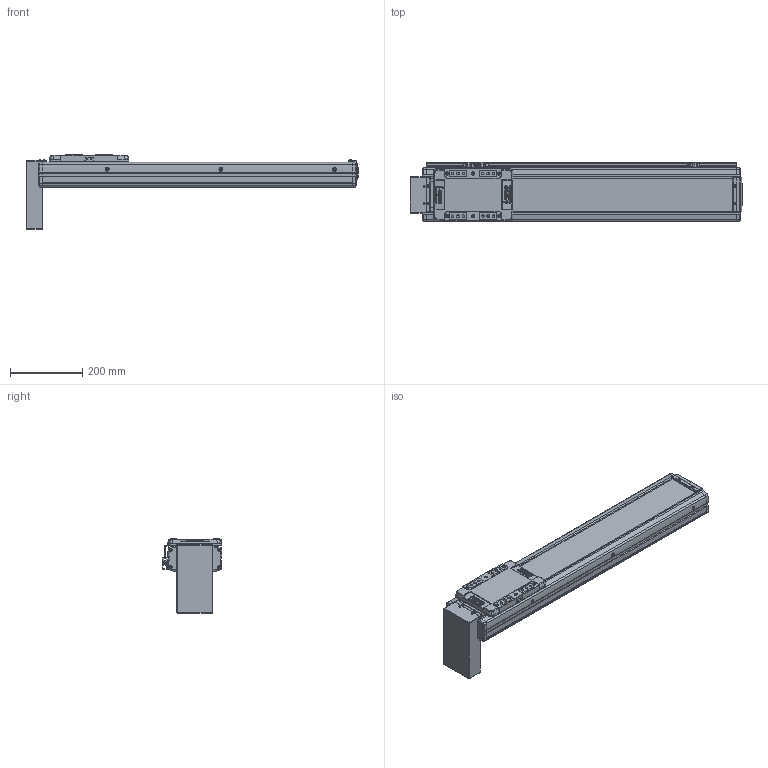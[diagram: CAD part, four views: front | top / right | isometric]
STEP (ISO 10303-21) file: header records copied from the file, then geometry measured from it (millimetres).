
FILE_DESCRIPTION(('STEP AP214'),'1');
FILE_NAME('Z:/Web/3D/SAN150/2013.04 (STP.)/SAN150ㅁㅁ-600PB+3SL.stp','2013-05-07T11:31:07',(' '),(' '),'Spatial InterOp 3D',' ',' ');
FILE_SCHEMA(('automotive_design'));
Length unit declared in the file: millimetre
Products named in the file (60): SLBL-SAN150; SLCV-SAN150; FHCS M4.0 x 8.0; BHCS M4.0 x 10.0; SFX-SAN150; RRCV-SAN150; FRBL-SAN150; Spacer; RN15; FRCV-SAN150; Screw 20; BASE-SAN150-000L ; SUS COVER; 스크루 : Round - M5.0 x 6.0; PB; 스크루 : Round - M3.0 x 6.0; M3.0 x 6.0; SRL-16x17-360L; SGD-SAN150; EE-SX674; SBK-SX674-352
Bounding box: 920 x 166 x 205.4 mm (x, y, z)
Volume: 5915768.8 mm3; surface area: 1111129.1 mm2
Topology: 60 solids, 60 shells, 2678 faces, 6876 edges, 4421 vertices
Faces by surface type: plane 1416, cylinder 867, cone 278, sphere 84, bspline 21, torus 12
Entity records: 105996 total; most frequent: CARTESIAN_POINT 16821, DIRECTION 14576, ORIENTED_EDGE 13528, EDGE_CURVE 6764, AXIS2_PLACEMENT_3D 5187, VERTEX_POINT 4421, LINE 4202, VECTOR 4202
